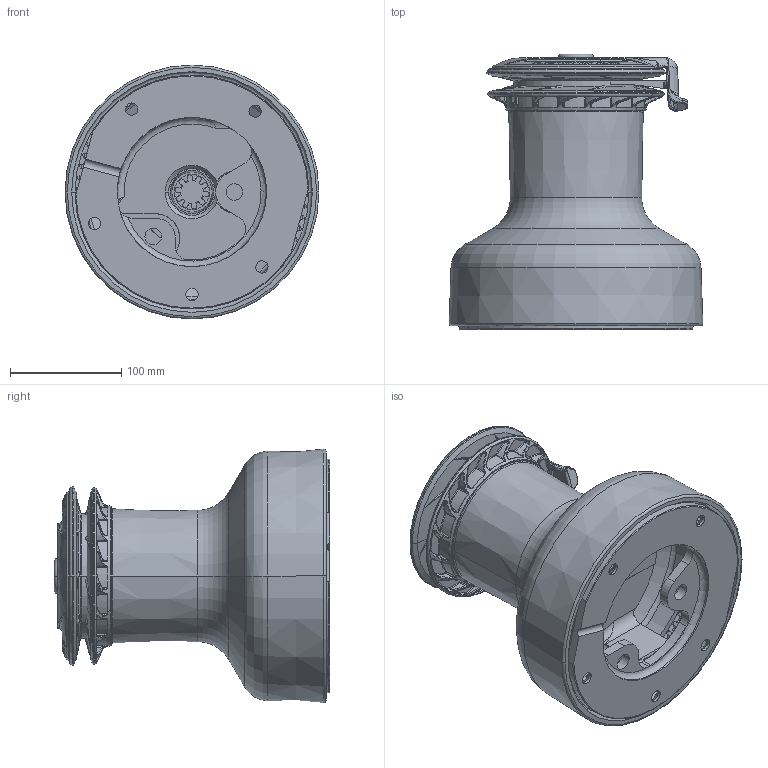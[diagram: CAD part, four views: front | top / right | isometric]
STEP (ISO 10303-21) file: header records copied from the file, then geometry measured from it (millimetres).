
FILE_DESCRIPTION((''),'2;1');
FILE_NAME('X_OEM_65_01_SW0001','2010-02-01T',('RFields'),(''),'PRO/ENGINEER BY PARAMETRIC TECHNOLOGY CORPORATION, 2007030','PRO/ENGINEER BY PARAMETRIC TECHNOLOGY CORPORATION, 2007030','');
FILE_SCHEMA(('CONFIG_CONTROL_DESIGN'));
Products named in the file (1): X_OEM_65_01_SW0001
Bounding box: 227.86 x 247.3 x 227.86 mm (x, y, z)
Volume: 2646219.2 mm3; surface area: 600898.4 mm2
Topology: 2 solids, 2 shells, 4436 faces, 11661 edges, 7376 vertices
Faces by surface type: plane 1230, extrusion 790, bspline 757, cylinder 710, cone 504, torus 426, sphere 19
Entity records: 183454 total; most frequent: CARTESIAN_POINT 84659, ORIENTED_EDGE 23308, DIRECTION 16332, EDGE_CURVE 11654, VERTEX_POINT 7376, AXIS2_PLACEMENT_3D 6188, B_SPLINE_CURVE_WITH_KNOTS 5979, EDGE_LOOP 4664
